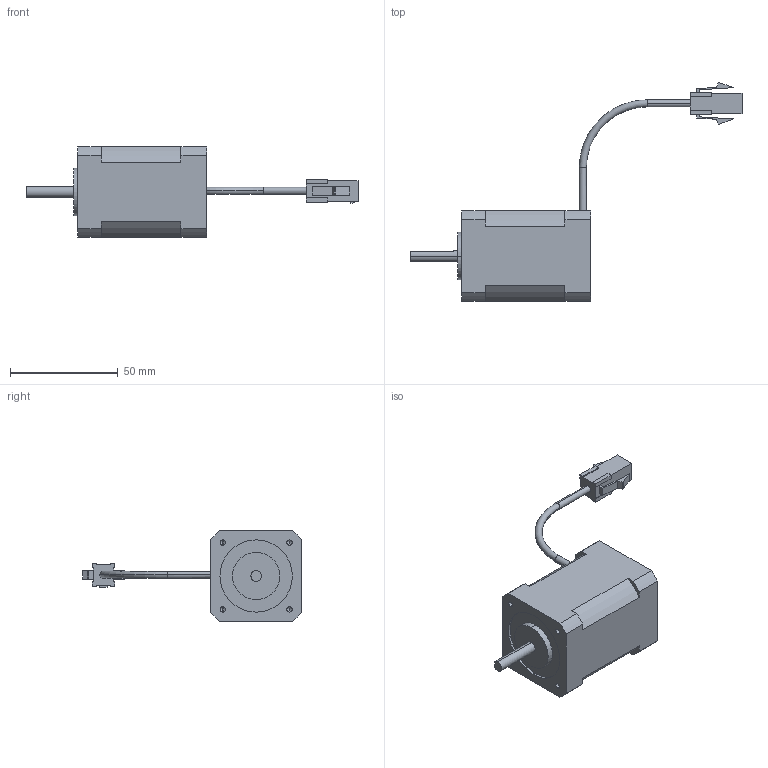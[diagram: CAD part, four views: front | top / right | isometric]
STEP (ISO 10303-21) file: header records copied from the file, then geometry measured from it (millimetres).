
FILE_DESCRIPTION (( 'STEP AP203' ), '1' );
FILE_NAME ('P21-MO-042-04-R00.STEP', '2015-06-30T07:58:33', ( '' ), ( '' ), 'SwSTEP 2.0', 'SolidWorks 2013', '' );
FILE_SCHEMA (( 'CONFIG_CONTROL_DESIGN' ));
Length unit declared in the file: millimetre
Products named in the file (3): M21-MO-042-04-R00_湀_; Power_Cable_ル遽; P21-MO-042-04-R00
Assembly tree (2 placements, depth 2):
  P21-MO-042-04-R00
    M21-MO-042-04-R00_湀_
    Power_Cable_ル遽
Bounding box: 154.28 x 101.61 x 42 mm (x, y, z)
Volume: 104677.4 mm3; surface area: 17647.5 mm2
Topology: 2 solids, 2 shells, 240 faces, 616 edges, 402 vertices
Faces by surface type: plane 160, cylinder 70, cone 8, torus 2
Entity records: 7505 total; most frequent: CARTESIAN_POINT 1255, DIRECTION 1246, ORIENTED_EDGE 1216, EDGE_CURVE 608, LINE 460, VECTOR 460, VERTEX_POINT 402, AXIS2_PLACEMENT_3D 393
